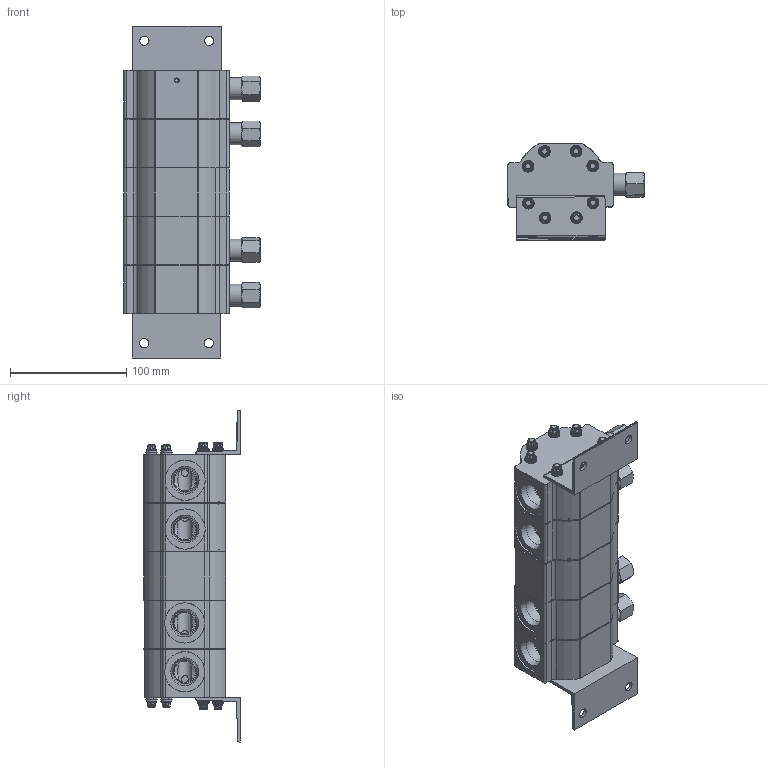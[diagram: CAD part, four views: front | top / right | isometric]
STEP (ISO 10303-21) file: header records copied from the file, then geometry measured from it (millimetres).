
FILE_DESCRIPTION (( 'STEP AP203' ), '1' );
FILE_NAME ('VDR_AGO-K0-21XX.STEP', '2015-03-13T09:42:07', ( '' ), ( '' ), 'SwSTEP 2.0', 'SolidWorks 2012', '' );
FILE_SCHEMA (( 'CONFIG_CONTROL_DESIGN' ));
Products named in the file (1): VDR_AGO-K0-21XX
Bounding box: 117.2 x 83.26 x 285.27 mm (x, y, z)
Volume: 879845.9 mm3; surface area: 273905 mm2
Topology: 35 solids, 35 shells, 1868 faces, 4877 edges, 3132 vertices
Faces by surface type: cylinder 707, bspline 520, plane 395, cone 246
Full cylindrical faces by diameter (mm): 3.251 x4, 4.14 x2, 5.105 x16, 5.156 x16, 5.467 x16, 5.57 x16, 5.651 x8, 5.944 x4, 6.35 x36, 6.756 x32, 7.061 x16, 7.137 x32, 7.144 x8, 7.671 x16, 7.937 x3, 7.938 x1, 9.271 x16, 10.033 x4, 12.636 x12, 12.7 x1, 14.478 x4, 14.684 x4, 15.926 x4, 17.462 x2, 17.475 x8, 18.313 x5, 18.796 x9, 18.923 x4, 19.844 x4, 20.472 x4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
Entity records: 97285 total; most frequent: CARTESIAN_POINT 58900, ORIENTED_EDGE 8082, DIRECTION 6808, EDGE_CURVE 4041, AXIS2_PLACEMENT_3D 2937, VERTEX_POINT 2891, EDGE_LOOP 2770, FACE_OUTER_BOUND 2283
